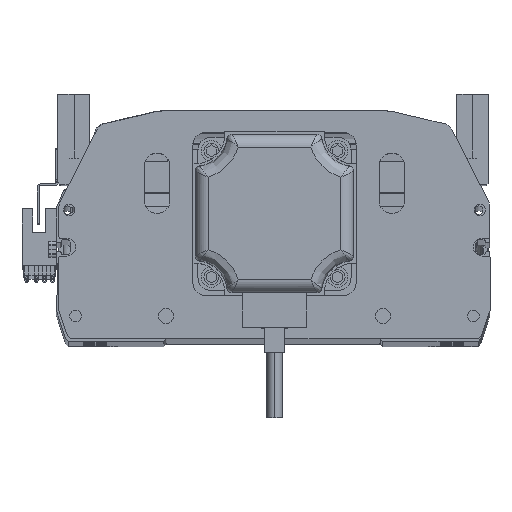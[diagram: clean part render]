
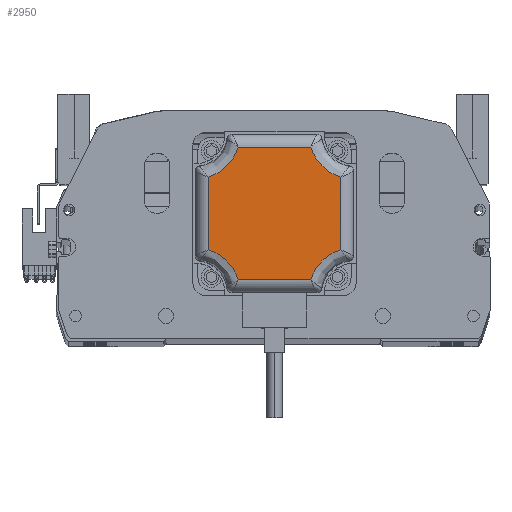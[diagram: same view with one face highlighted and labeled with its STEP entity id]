
A CAD part, top view. The second image highlights one B-rep face of the part: STEP entity #2950.
In plain terms, the highlighted planar face has unit normal (0, 0, 1) as drawn and (0, 0, -1) by its records, which use the part's own axes.
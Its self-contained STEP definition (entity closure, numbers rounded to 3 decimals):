
#41 = CARTESIAN_POINT ( 'NONE',  ( 14.229, 26., -116.5 ) ) ;
#2950 = ADVANCED_FACE ( 'NONE', ( #33168 ), #14839, .F. ) ;
#3750 = CARTESIAN_POINT ( 'NONE',  ( -14.229, 26., -116.5 ) ) ;
#3878 = CARTESIAN_POINT ( 'NONE',  ( 15.5, 26., -116.5 ) ) ;
#4025 = CARTESIAN_POINT ( 'NONE',  ( -15.953, -20.219, -116.5 ) ) ;
#5378 = EDGE_CURVE ( 'NONE', #39735, #30987, #22053, .T. ) ;
#7308 = DIRECTION ( 'NONE',  ( -1., 0., 0. ) ) ;
#7836 = CARTESIAN_POINT ( 'NONE',  ( 20.219, -15.953, -116.5 ) ) ;
#7976 = CARTESIAN_POINT ( 'NONE',  ( 14.229, 26., -116.5 ) ) ;
#9137 = ORIENTED_EDGE ( 'NONE', *, *, #29075, .F. ) ;
#10045 = CARTESIAN_POINT ( 'NONE',  ( 26., -14.229, -116.5 ) ) ;
#10358 = DIRECTION ( 'NONE',  ( 0., 0., 1. ) ) ;
#10583 = EDGE_CURVE ( 'NONE', #30987, #43167, #42078, .T. ) ;
#11800 = CARTESIAN_POINT ( 'NONE',  ( 26., -14.229, -116.5 ) ) ;
#12124 = CARTESIAN_POINT ( 'NONE',  ( 14.229, -26., -116.5 ) ) ;
#12551 = LINE ( 'NONE', #3878, #36476 ) ;
#12855 = ORIENTED_EDGE ( 'NONE', *, *, #25010, .F. ) ;
#13405 = DIRECTION ( 'NONE',  ( 1., 0., 0. ) ) ;
#14839 = PLANE ( 'NONE',  #43690 ) ;
#14974 = LINE ( 'NONE', #39701, #30864 ) ;
#15282 = VERTEX_POINT ( 'NONE', #38690 ) ;
#15310 = CARTESIAN_POINT ( 'NONE',  ( -14.229, 26., -116.5 ) ) ;
#15349 = EDGE_LOOP ( 'NONE', ( #37318, #50480, #46077, #16134, #20744, #18688, #9137, #12855 ) ) ;
#16134 = ORIENTED_EDGE ( 'NONE', *, *, #25161, .F. ) ;
#17477 = CARTESIAN_POINT ( 'NONE',  ( -26., 14.229, -116.5 ) ) ;
#18688 = ORIENTED_EDGE ( 'NONE', *, *, #5378, .F. ) ;
#19614 = VECTOR ( 'NONE', #13405, 1000. ) ;
#19645 = CARTESIAN_POINT ( 'NONE',  ( 26., 14.229, -116.5 ) ) ;
#20744 = ORIENTED_EDGE ( 'NONE', *, *, #10583, .F. ) ;
#22053 = LINE ( 'NONE', #40966, #19614 ) ;
#23983 = VERTEX_POINT ( 'NONE', #28194 ) ;
#24055 = CARTESIAN_POINT ( 'NONE',  ( 20.219, 15.953, -116.5 ) ) ;
#25010 = EDGE_CURVE ( 'NONE', #50500, #23983, #14974, .T. ) ;
#25161 = EDGE_CURVE ( 'NONE', #43167, #15282, #44957, .T. ) ;
#27207 =( BOUNDED_CURVE ( )  B_SPLINE_CURVE ( 3, ( #19645, #24055, #35382, #41 ),
 .UNSPECIFIED., .F., .T. ) 
 B_SPLINE_CURVE_WITH_KNOTS ( ( 4, 4 ),
 ( 0., 1. ),
 .UNSPECIFIED. ) 
 CURVE ( )  GEOMETRIC_REPRESENTATION_ITEM ( )  RATIONAL_B_SPLINE_CURVE ( ( 1., 0.92, 0.92, 1. ) ) 
 REPRESENTATION_ITEM ( '' )  );
#27327 = CARTESIAN_POINT ( 'NONE',  ( -14.229, -26., -116.5 ) ) ;
#27426 = CARTESIAN_POINT ( 'NONE',  ( -20.219, 15.953, -116.5 ) ) ;
#28194 = CARTESIAN_POINT ( 'NONE',  ( -26., -14.229, -116.5 ) ) ;
#29075 = EDGE_CURVE ( 'NONE', #23983, #39735, #39498, .T. ) ;
#29570 = DIRECTION ( 'NONE',  ( 0., 1., 0. ) ) ;
#30864 = VECTOR ( 'NONE', #39540, 1000. ) ;
#30976 = EDGE_CURVE ( 'NONE', #34575, #45800, #12551, .T. ) ;
#30987 = VERTEX_POINT ( 'NONE', #38659 ) ;
#31383 = CARTESIAN_POINT ( 'NONE',  ( -26., 14.229, -116.5 ) ) ;
#33168 = FACE_OUTER_BOUND ( 'NONE', #15349, .T. ) ;
#34575 = VERTEX_POINT ( 'NONE', #7976 ) ;
#35382 = CARTESIAN_POINT ( 'NONE',  ( 15.953, 20.219, -116.5 ) ) ;
#35406 =( BOUNDED_CURVE ( )  B_SPLINE_CURVE ( 3, ( #15310, #46593, #27426, #31383 ),
 .UNSPECIFIED., .F., .T. ) 
 B_SPLINE_CURVE_WITH_KNOTS ( ( 4, 4 ),
 ( 0., 1. ),
 .UNSPECIFIED. ) 
 CURVE ( )  GEOMETRIC_REPRESENTATION_ITEM ( )  RATIONAL_B_SPLINE_CURVE ( ( 1., 0.92, 0.92, 1. ) ) 
 REPRESENTATION_ITEM ( '' )  );
#35713 = CARTESIAN_POINT ( 'NONE',  ( -20.219, -15.953, -116.5 ) ) ;
#36476 = VECTOR ( 'NONE', #7308, 1000. ) ;
#37318 = ORIENTED_EDGE ( 'NONE', *, *, #50318, .F. ) ;
#38659 = CARTESIAN_POINT ( 'NONE',  ( 14.229, -26., -116.5 ) ) ;
#38690 = CARTESIAN_POINT ( 'NONE',  ( 26., 14.229, -116.5 ) ) ;
#39498 =( BOUNDED_CURVE ( )  B_SPLINE_CURVE ( 3, ( #46828, #35713, #4025, #27327 ),
 .UNSPECIFIED., .F., .F. ) 
 B_SPLINE_CURVE_WITH_KNOTS ( ( 4, 4 ),
 ( 0., 1. ),
 .UNSPECIFIED. ) 
 CURVE ( )  GEOMETRIC_REPRESENTATION_ITEM ( )  RATIONAL_B_SPLINE_CURVE ( ( 1., 0.92, 0.92, 1. ) ) 
 REPRESENTATION_ITEM ( '' )  );
#39540 = DIRECTION ( 'NONE',  ( 0., -1., 0. ) ) ;
#39701 = CARTESIAN_POINT ( 'NONE',  ( -26., 15.5, -116.5 ) ) ;
#39735 = VERTEX_POINT ( 'NONE', #49603 ) ;
#40966 = CARTESIAN_POINT ( 'NONE',  ( -15.5, -26., -116.5 ) ) ;
#41237 = CARTESIAN_POINT ( 'NONE',  ( 26., -15.5, -116.5 ) ) ;
#42078 =( BOUNDED_CURVE ( )  B_SPLINE_CURVE ( 3, ( #12124, #47364, #7836, #11800 ),
 .UNSPECIFIED., .F., .F. ) 
 B_SPLINE_CURVE_WITH_KNOTS ( ( 4, 4 ),
 ( 0., 1. ),
 .UNSPECIFIED. ) 
 CURVE ( )  GEOMETRIC_REPRESENTATION_ITEM ( )  RATIONAL_B_SPLINE_CURVE ( ( 1., 0.92, 0.92, 1. ) ) 
 REPRESENTATION_ITEM ( '' )  );
#42215 = CARTESIAN_POINT ( 'NONE',  ( 0., 0., -116.5 ) ) ;
#43167 = VERTEX_POINT ( 'NONE', #10045 ) ;
#43690 = AXIS2_PLACEMENT_3D ( 'NONE', #42215, #10358, #45648 ) ;
#44561 = EDGE_CURVE ( 'NONE', #15282, #34575, #27207, .T. ) ;
#44957 = LINE ( 'NONE', #41237, #47971 ) ;
#45648 = DIRECTION ( 'NONE',  ( 1., 0., 0. ) ) ;
#45800 = VERTEX_POINT ( 'NONE', #3750 ) ;
#46077 = ORIENTED_EDGE ( 'NONE', *, *, #44561, .F. ) ;
#46593 = CARTESIAN_POINT ( 'NONE',  ( -15.953, 20.219, -116.5 ) ) ;
#46828 = CARTESIAN_POINT ( 'NONE',  ( -26., -14.229, -116.5 ) ) ;
#47364 = CARTESIAN_POINT ( 'NONE',  ( 15.953, -20.219, -116.5 ) ) ;
#47971 = VECTOR ( 'NONE', #29570, 1000. ) ;
#49603 = CARTESIAN_POINT ( 'NONE',  ( -14.229, -26., -116.5 ) ) ;
#50318 = EDGE_CURVE ( 'NONE', #45800, #50500, #35406, .T. ) ;
#50480 = ORIENTED_EDGE ( 'NONE', *, *, #30976, .F. ) ;
#50500 = VERTEX_POINT ( 'NONE', #17477 ) ;
